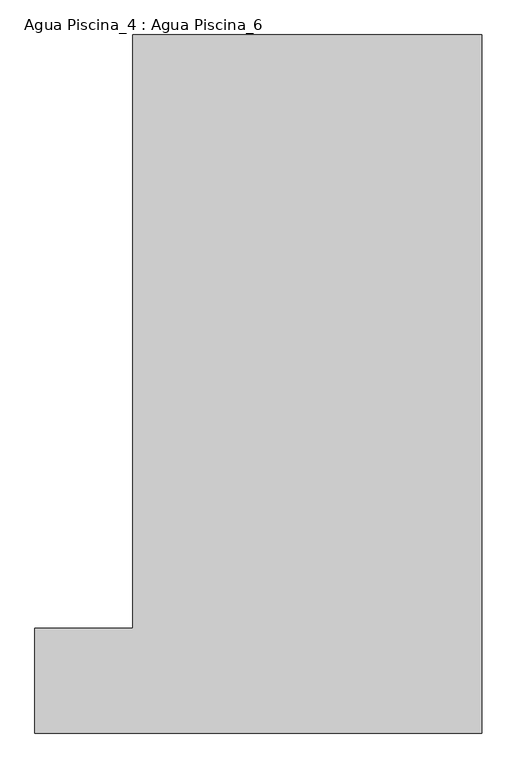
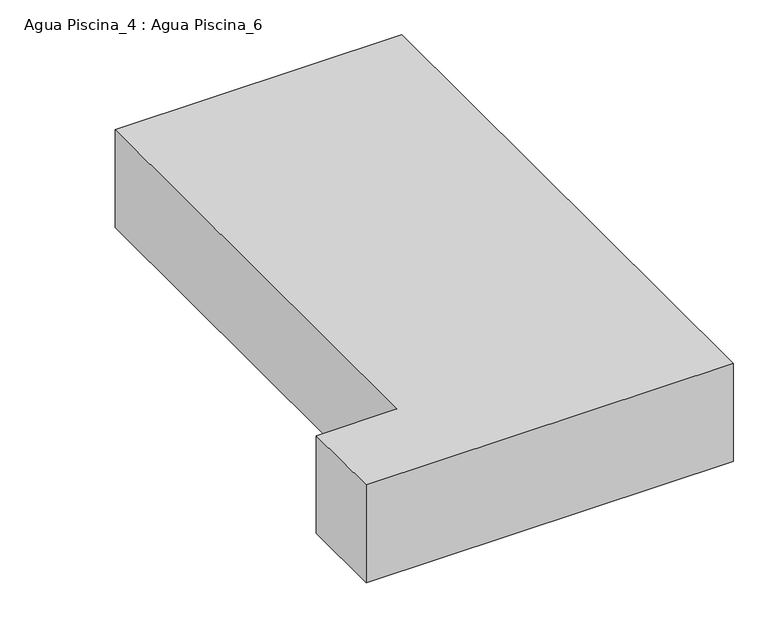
"""IFC4 building model written with IfcOpenShell, lengths in millimetres: proxy geometry, Agua Piscina_4 : Agua Piscina_6."""

from ifc_helpers import new_model, si_unit, frame, origin, place, context, project, spatial, polyline, outline, extrude, source, transform, mapped, element, save


def agua_piscina_4_agua_piscina_6_01312ebb(model_context):
    return source(origin(), model_context, "Body", "SweptSolid", [
        extrude(outline(polyline([(12806.4646212, 6324.7075972), (13926.4646212, 6324.7075972), (13926.4646212, 13124.7075972), (17926.4646212, 13124.7075972), (17926.4646212, 5124.7075972), (12806.4646212, 5124.7075972), (12806.4646212, 6324.7075972)])), frame((0.0, 0.0, -1528.8765741), z_axis=(0.0, 0.0, 1.0), x_axis=(1.0, 0.0, 0.0)), (0.0, 0.0, 1.0), 1440.5702803),
    ])


if __name__ == "__main__":
    model = new_model("IFC4")
    model_context = context("Model", 3, world=origin())
    ifc_project = project(units=[si_unit("LENGTHUNIT", "METRE", prefix="MILLI")], contexts=[model_context])
    site = spatial("IfcSite", under=ifc_project)
    building = spatial("IfcBuilding", under=site)
    placement = place(None, origin())
    agua_piscina_4_agua_piscina_6_shape = agua_piscina_4_agua_piscina_6_01312ebb(model_context)
    element("IfcBuildingElementProxy", 1, Name="Agua Piscina_4 : Agua Piscina_6", ObjectType="Agua Piscina_4 : Agua Piscina_6", at=placement, inside=building, context=model_context, shape_type="MappedRepresentation", body=[
        mapped(agua_piscina_4_agua_piscina_6_shape, transform((0.0, 0.0, 0.0), x_axis=(1.0, 0.0, 0.0), y_axis=(0.0, 1.0, 0.0), z_axis=(0.0, 0.0, 1.0))),
    ])
    save(model, "model.ifc")
